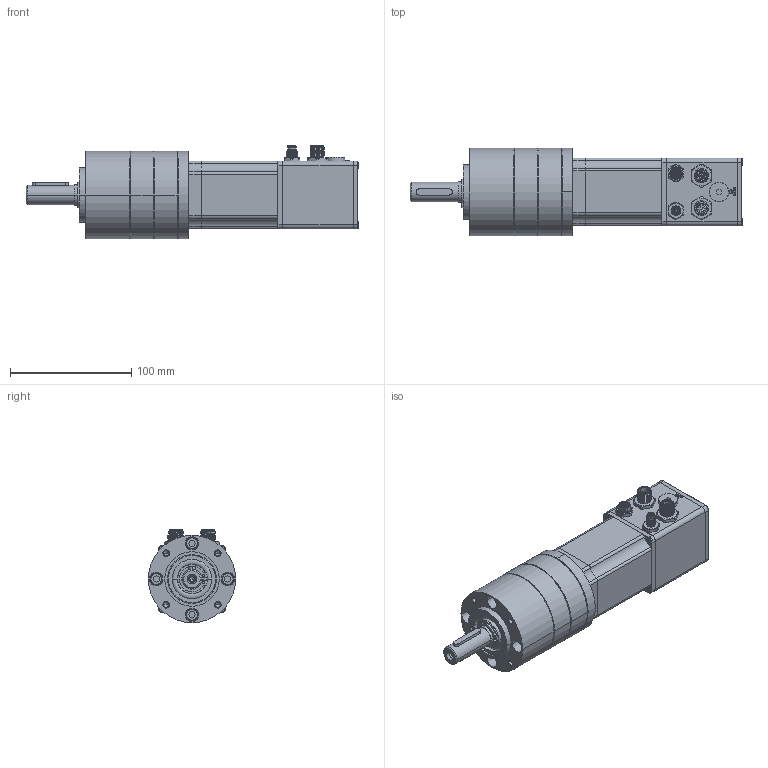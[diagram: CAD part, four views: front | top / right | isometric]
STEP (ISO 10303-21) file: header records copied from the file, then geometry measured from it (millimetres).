
FILE_DESCRIPTION (( 'STEP AP214' ), '1' );
FILE_NAME ('IDX56M_PM72-2stages.STEP', '2020-04-16T13:29:54', ( '' ), ( '' ), 'SwSTEP 2.0', 'SolidWorks 2018', '' );
FILE_SCHEMA (( 'AUTOMOTIVE_DESIGN' ));
Length unit declared in the file: millimetre
Products named in the file (4): B7B8186B6F20; PM72-2etages; 6576738_01_Adapt IDX56_PM72; IDX56M_PM72-2stages
Assembly tree (3 placements, depth 2):
  IDX56M_PM72-2stages
    6576738_01_Adapt IDX56_PM72
    PM72-2etages
    B7B8186B6F20
Bounding box: 273.85 x 72 x 77 mm (x, y, z)
Volume: 462747.3 mm3; surface area: 198597.9 mm2
Topology: 51 solids, 88 shells, 2774 faces, 6761 edges, 4238 vertices
Faces by surface type: cylinder 968, plane 840, cone 788, bspline 110, torus 68
Entity records: 106417 total; most frequent: CARTESIAN_POINT 18177, DIRECTION 15109, ORIENTED_EDGE 13446, EDGE_CURVE 6741, AXIS2_PLACEMENT_3D 5841, VERTEX_POINT 4238, LINE 3427, VECTOR 3427
